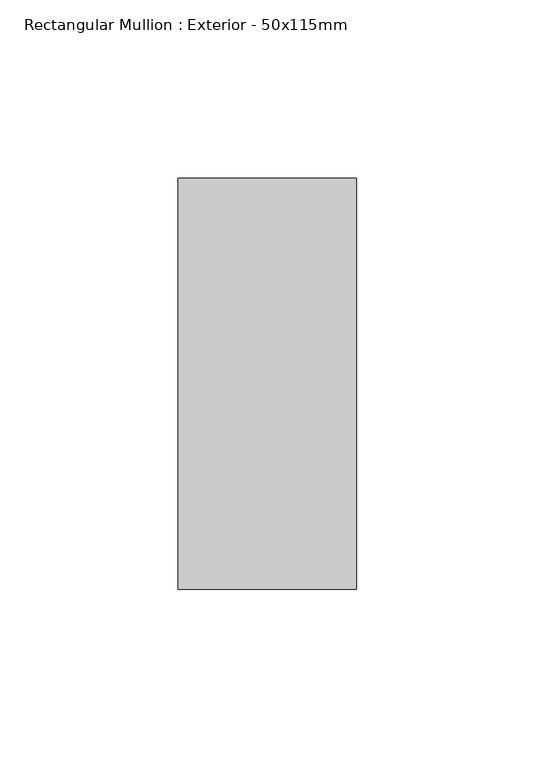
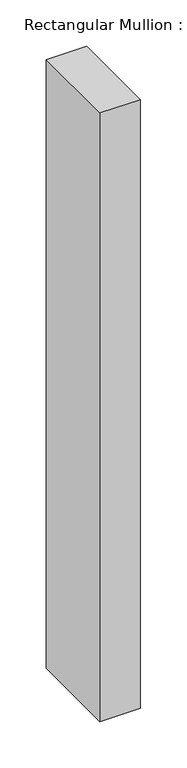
"""IFC4 building model written with IfcOpenShell, lengths in millimetres: member geometry, Rectangular Mullion : Exterior - 50x115mm."""

from ifc_helpers import new_model, si_unit, frame, origin, place, context, project, spatial, polyline, outline, extrude, source, transform, mapped, element, save


def rectangular_mullion_exterior_50x115mm_c391e601(model_context):
    return source(origin(), model_context, "Body", "SweptSolid", [
        extrude(outline(polyline([(0.0, 115.0), (0.0, 0.0), (-50.0, 0.0), (-50.0, 115.0), (0.0, 115.0)])), frame((0.0, 0.0, -800.0), z_axis=(0.0, 0.0, 1.0), x_axis=(1.0, 0.0, 0.0)), (0.0, 0.0, 1.0), 800.0),
    ])


if __name__ == "__main__":
    model = new_model("IFC4")
    model_context = context("Model", 3, world=origin())
    ifc_project = project(units=[si_unit("LENGTHUNIT", "METRE", prefix="MILLI")], contexts=[model_context])
    site = spatial("IfcSite", under=ifc_project)
    building = spatial("IfcBuilding", under=site)
    placement = place(None, origin())
    rectangular_mullion_exterior_50x115mm_shape = rectangular_mullion_exterior_50x115mm_c391e601(model_context)
    element("IfcMember", 1, ObjectType="Rectangular Mullion : Exterior - 50x115mm", at=placement, inside=building, context=model_context, shape_type="MappedRepresentation", body=[
        mapped(rectangular_mullion_exterior_50x115mm_shape, transform((0.0, 0.0, 0.0), x_axis=(1.0, 0.0, 0.0), y_axis=(0.0, 1.0, 0.0), z_axis=(0.0, 0.0, 1.0))),
    ])
    save(model, "model.ifc")
